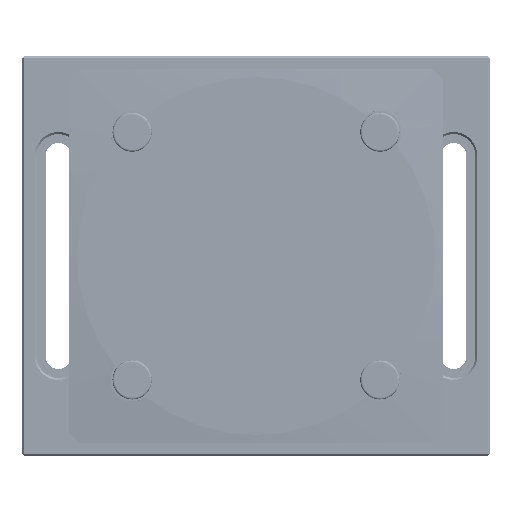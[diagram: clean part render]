
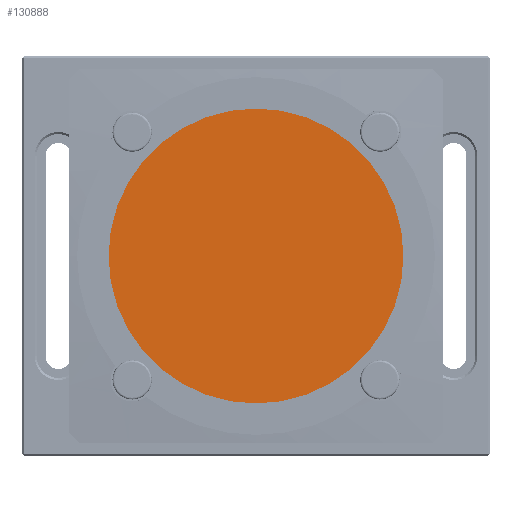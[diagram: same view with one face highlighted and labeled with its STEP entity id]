
A CAD part, front view. The second image highlights one B-rep face of the part: STEP entity #130888.
In plain terms, the highlighted planar face has unit normal (0, -1, 0) as drawn and (0, 1, 0) by its records, which use the part's own axes.
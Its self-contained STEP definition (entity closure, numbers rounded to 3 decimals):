
#130245=CARTESIAN_POINT('',(0.,-3.517,0.));
#130246=DIRECTION('',(0.,1.,0.));
#130247=DIRECTION('',(-1.,0.,0.));
#130248=AXIS2_PLACEMENT_3D('',#130245,#130246,#130247);
#130250=CARTESIAN_POINT('',(0.,-3.517,0.));
#130251=DIRECTION('',(0.,1.,0.));
#130252=DIRECTION('',(1.,0.,0.));
#130253=AXIS2_PLACEMENT_3D('',#130250,#130251,#130252);
#130727=CARTESIAN_POINT('',(-37.5,-3.517,0.));
#130728=CARTESIAN_POINT('',(37.5,-3.517,0.));
#130729=VERTEX_POINT('',#130727);
#130730=VERTEX_POINT('',#130728);
#130879=CARTESIAN_POINT('',(0.,-3.517,0.));
#130880=DIRECTION('',(0.,1.,0.));
#130881=DIRECTION('',(-1.,0.,0.));
#130882=AXIS2_PLACEMENT_3D('',#130879,#130880,#130881);
#130883=PLANE('',#130882);
#130884=ORIENTED_EDGE('',*,*,#130859,.F.);
#130885=ORIENTED_EDGE('',*,*,#130873,.F.);
#130886=EDGE_LOOP('',(#130884,#130885));
#130887=FACE_OUTER_BOUND('',#130886,.F.);
#130888=ADVANCED_FACE('',(#130887),#130883,.T.);
#130249=CIRCLE('',#130248,37.5);
#130254=CIRCLE('',#130253,37.5);
#130859=EDGE_CURVE('',#130729,#130730,#130249,.T.);
#130873=EDGE_CURVE('',#130730,#130729,#130254,.T.);
